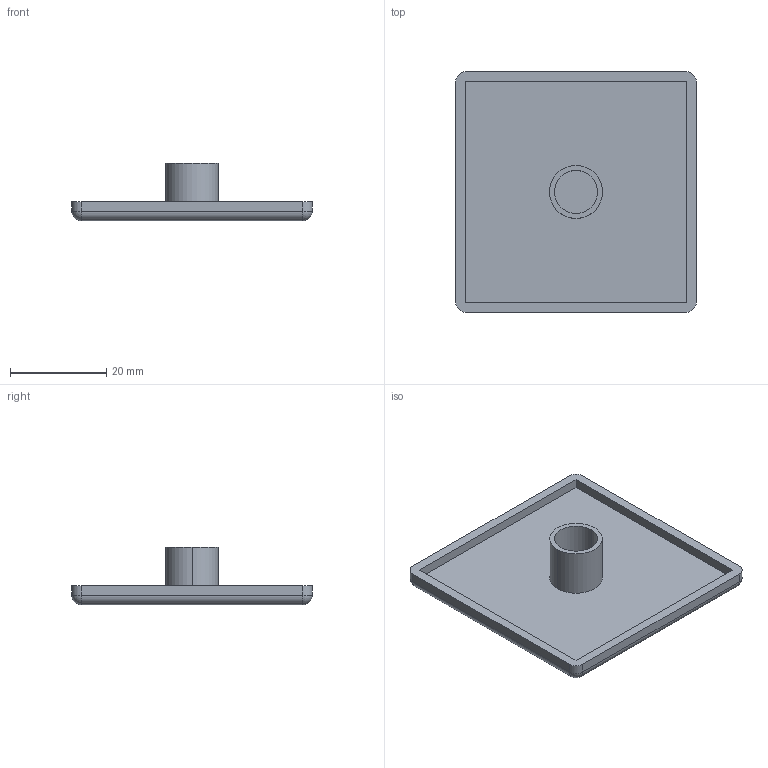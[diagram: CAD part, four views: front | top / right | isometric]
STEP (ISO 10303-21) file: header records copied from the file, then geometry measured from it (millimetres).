
FILE_DESCRIPTION (( 'STEP AP203' ), '1' );
FILE_NAME ('171-CE-CP-5050.STEP', '2015-07-09T09:14:02', ( '' ), ( '' ), 'SwSTEP 2.0', 'SolidWorks 2013', '' );
FILE_SCHEMA (( 'CONFIG_CONTROL_DESIGN' ));
Length unit declared in the file: millimetre
Products named in the file (1): 171-CE-CP-5050
Bounding box: 50 x 50 x 12 mm (x, y, z)
Volume: 5902.1 mm3; surface area: 6605.2 mm2
Topology: 1 solids, 1 shells, 29 faces, 64 edges, 36 vertices
Faces by surface type: plane 13, cylinder 12, sphere 4
Entity records: 839 total; most frequent: DIRECTION 144, CARTESIAN_POINT 126, ORIENTED_EDGE 120, EDGE_CURVE 60, AXIS2_PLACEMENT_3D 54, LINE 36, VECTOR 36, VERTEX_POINT 36
